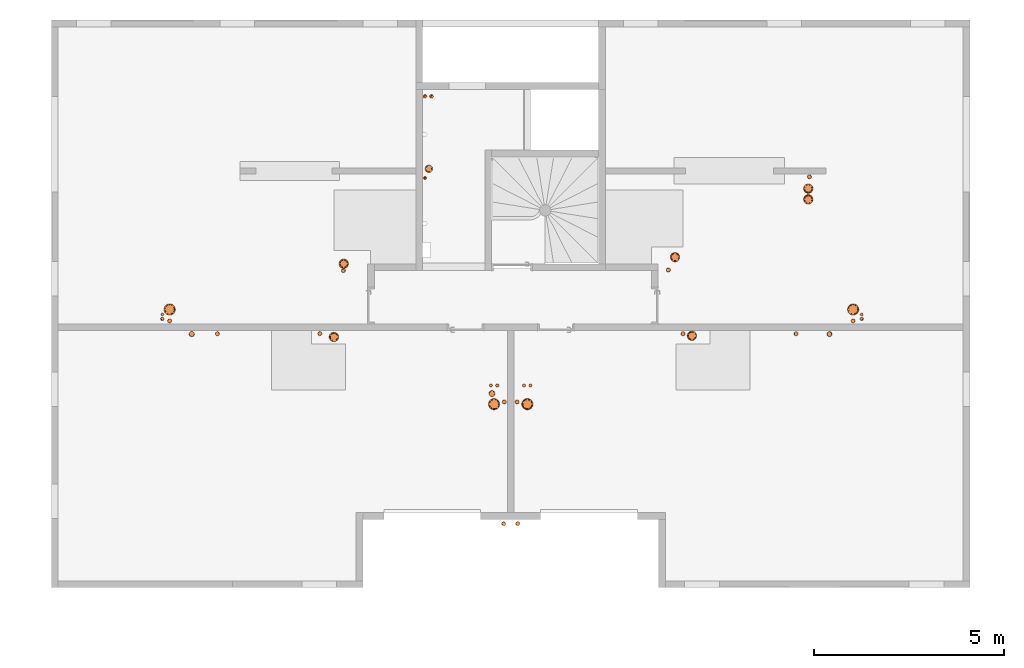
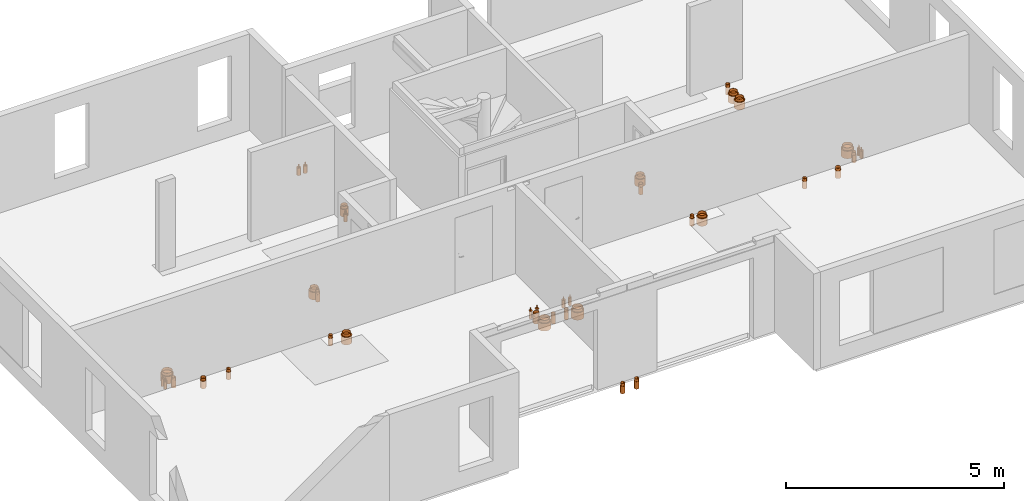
# One storey, part 21 of 24: 38 proxies.
"""IFC2X3 building model written with IfcOpenShell, lengths in centimetres."""

import ifcopenshell
import ifcopenshell.guid

model = None  # the IFC model being written
_history = None  # IfcOwnerHistory: only IFC2X3 demands one
_inside = {}  # id of a spatial element -> (the spatial element, [elements in it])
_under = {}  # id of a project, library or spatial element -> (it, [spatial elements below it])
_declared = {}  # id of a project -> (the project, [libraries it declares])
_typed = {}  # id of a type object -> (the type object, [elements of that type])
_made_of = {}  # id of a material, layer set ... -> (it, [elements and type objects made of it])


def new_model(schema):
    """Start an empty IFC model of exactly this schema.

    Asked for "IFC4X3", IfcOpenShell would pick the latest addendum, in which some entities
    have other attributes; the version numbers below select the first issue.
    IFC2X3 requires an IfcOwnerHistory on every rooted entity: one is made here for all.
    """
    global model, _history
    if schema == "IFC4X3":
        model = ifcopenshell.file(schema_version=(4, 3, 0, 0))
    else:
        model = ifcopenshell.file(schema=schema)
    _inside.clear()
    _under.clear()
    _declared.clear()
    _typed.clear()
    _made_of.clear()
    _history = None
    if model.schema == "IFC2X3":
        org = make("IfcOrganization", Name="unknown")
        user = make(
            "IfcPersonAndOrganization",
            ThePerson=make("IfcPerson", FamilyName="unknown"),
            TheOrganization=org,
        )
        app = make(
            "IfcApplication",
            ApplicationDeveloper=org,
            Version="unknown",
            ApplicationFullName="unknown",
            ApplicationIdentifier="unknown",
        )
        _history = make(
            "IfcOwnerHistory",
            OwningUser=user,
            OwningApplication=app,
            ChangeAction="ADDED",
            CreationDate=0,
        )
    return model


def make(cls, **values):
    """One entity of the class cls with the attributes given. An attribute that is None is left unset."""
    return model.create_entity(
        cls, **{name: value for name, value in values.items() if value is not None}
    )


def entity(cls, *values):
    """Any entity or typed value of the class cls, its attributes in the order of the schema. None: left unset."""
    e = model.create_entity(cls)
    for i, value in enumerate(values):
        if value is not None:
            e[i] = value
    return e


def rooted(cls, **values):
    """An entity with a GlobalId (a new one), such as an element, a storey or a relation."""
    return make(cls, GlobalId=ifcopenshell.guid.new(), OwnerHistory=_history, **values)


def si_unit(unit_type, name, prefix=None):
    """IfcSIUnit, for example si_unit("LENGTHUNIT", "METRE", prefix="MILLI")."""
    return make("IfcSIUnit", UnitType=unit_type, Prefix=prefix, Name=name)


def converted_unit(unit_type, name, factor, base, dimensions=None, offset=None):
    """IfcConversionBasedUnit, such as the inch: factor (a typed value) times the base unit."""
    return make(
        "IfcConversionBasedUnit"
        if offset is None
        else "IfcConversionBasedUnitWithOffset",
        ConversionOffset=offset,
        Dimensions=None
        if dimensions is None
        else entity("IfcDimensionalExponents", *dimensions),
        UnitType=unit_type,
        Name=name,
        ConversionFactor=make(
            "IfcMeasureWithUnit", ValueComponent=factor, UnitComponent=base
        ),
    )


def derived_unit(unit_type, elements):
    """IfcDerivedUnit: a product of units, each with its exponent."""
    return make(
        "IfcDerivedUnit",
        Elements=[
            make("IfcDerivedUnitElement", Unit=unit, Exponent=power)
            for unit, power in elements
        ],
        UnitType=unit_type,
    )


def assignment(units):
    """IfcUnitAssignment: the units of a project."""
    return None if units is None else make("IfcUnitAssignment", Units=units)


def point(xyz):
    """IfcCartesianPoint."""
    return None if xyz is None else make("IfcCartesianPoint", Coordinates=xyz)


def direction(xyz):
    """IfcDirection."""
    return None if xyz is None else make("IfcDirection", DirectionRatios=xyz)


def frame(location, z_axis=None, x_axis=None):
    """IfcAxis2Placement3D, a coordinate frame: its origin and axes. An axis left out is left unset."""
    return make(
        "IfcAxis2Placement3D",
        Location=point(location),
        Axis=direction(z_axis),
        RefDirection=direction(x_axis),
    )


def frame_2d(location, x_axis=None):
    """IfcAxis2Placement2D, a coordinate frame in the plane: its origin and x axis."""
    return make(
        "IfcAxis2Placement2D", Location=point(location), RefDirection=direction(x_axis)
    )


def origin():
    """The frame at (0, 0, 0) with its axes left unset."""
    return frame((0.0, 0.0, 0.0))


def place(relative_to, where):
    """IfcLocalPlacement: puts the frame where relative to a parent placement (None: the world)."""
    return make(
        "IfcLocalPlacement", PlacementRelTo=relative_to, RelativePlacement=where
    )


def context(
    kind, dimensions, precision=None, world=None, true_north=None, identifier=None
):
    """IfcGeometricRepresentationContext, for example the 3D "Model" context."""
    return make(
        "IfcGeometricRepresentationContext",
        ContextIdentifier=identifier,
        ContextType=kind,
        CoordinateSpaceDimension=dimensions,
        Precision=precision,
        WorldCoordinateSystem=world,
        TrueNorth=true_north,
    )


def subcontext(parent, identifier, kind, view, scale=None):
    """IfcGeometricRepresentationSubContext, for example "Body" below "Model"."""
    return make(
        "IfcGeometricRepresentationSubContext",
        ContextIdentifier=identifier,
        ContextType=kind,
        ParentContext=parent,
        TargetScale=scale,
        TargetView=view,
    )


def project(units=None, contexts=None):
    """IfcProject with its units and contexts."""
    return rooted(
        "IfcProject",
        Name="project",
        RepresentationContexts=contexts,
        UnitsInContext=assignment(units),
    )


def spatial(cls, under=None, at=None, **own):
    """A site, building, storey or space (cls), placed at a placement, below another one or the project."""
    s = rooted(cls, ObjectPlacement=at, **own)
    if under is not None:
        _under.setdefault(under.id(), (under, []))[1].append(s)
    return s


def profile(cls, at=None, kind="AREA", **sizes):
    """A parametric profile (cls). Its sizes go by their IFC names, for example OverallWidth=200.0."""
    return make(cls, ProfileType=kind, Position=at, **sizes)


def circle(**sizes):
    """IfcCircleProfileDef."""
    return profile("IfcCircleProfileDef", **sizes)


def hollow_circle(**sizes):
    """IfcCircleHollowProfileDef."""
    return profile("IfcCircleHollowProfileDef", **sizes)


def extrude(swept, where, along, depth):
    """IfcExtrudedAreaSolid: the profile swept, set in the frame where, extruded along a direction by depth."""
    return make(
        "IfcExtrudedAreaSolid",
        SweptArea=swept,
        Position=where,
        ExtrudedDirection=direction(along),
        Depth=depth,
    )


def shape(context_of_items, identifier, shape_type, items):
    """IfcShapeRepresentation: the items that make up one representation, for example the "Body"."""
    return make(
        "IfcShapeRepresentation",
        ContextOfItems=context_of_items,
        RepresentationIdentifier=identifier,
        RepresentationType=shape_type,
        Items=items,
    )


def source(mapping_origin, context_of_items, identifier, shape_type, items):
    """IfcRepresentationMap: a shape defined once, which mapped items show again and again."""
    return make(
        "IfcRepresentationMap",
        MappingOrigin=mapping_origin,
        MappedRepresentation=shape(context_of_items, identifier, shape_type, items),
    )


def transform(
    local_origin,
    x_axis=None,
    y_axis=None,
    z_axis=None,
    scale=None,
    scale2=None,
    scale3=None,
    uniform=True,
):
    """IfcCartesianTransformationOperator3D, or its non-uniform kind. x_axis, y_axis, z_axis: its Axis1, 2, 3."""
    if uniform:
        return make(
            "IfcCartesianTransformationOperator3D",
            Axis1=direction(x_axis),
            Axis2=direction(y_axis),
            LocalOrigin=point(local_origin),
            Scale=scale,
            Axis3=direction(z_axis),
        )
    return make(
        "IfcCartesianTransformationOperator3DnonUniform",
        Axis1=direction(x_axis),
        Axis2=direction(y_axis),
        LocalOrigin=point(local_origin),
        Scale=scale,
        Axis3=direction(z_axis),
        Scale2=scale2,
        Scale3=scale3,
    )


def mapped(mapping_source, mapping_target):
    """IfcMappedItem: shows the shape of a source again, moved by a transform."""
    return make(
        "IfcMappedItem", MappingSource=mapping_source, MappingTarget=mapping_target
    )


def material(Name=None, Category=None):
    """IfcMaterial."""
    return make("IfcMaterial", Name=Name, Category=Category)


def made_of(thing, what):
    """Note that an element or type object is made of a material, layer set ...; save() writes the relation."""
    if what is not None:
        _made_of.setdefault(what.id(), (what, []))[1].append(thing)
    return thing


def type_object(cls, material=None, **own):
    """A type object (cls), such as IfcWallType, which elements share."""
    return made_of(rooted(cls, **own), material)


def type_shapes(of_type, sources):
    """Give a type object the sources (RepresentationMaps) that its elements show as mapped items."""
    of_type.RepresentationMaps = sources


def element(
    cls,
    number,
    at=None,
    inside=None,
    cuts=None,
    type_object=None,
    material=None,
    context=None,
    identifier="Body",
    shape_type=None,
    held_by="IfcProductDefinitionShape",
    body=None,
    shapes=None,
    **own,
):
    """One element of the class cls, such as IfcWall. Its Tag is "e" and its number.

    at: its placement. inside: the storey or other place that contains it. cuts: it is an
    opening in that element (IfcRelVoidsElement). A single representation is given by context,
    identifier, shape_type and body (its items); several are given by shapes. held_by: the class
    of the entity that holds the representations. save() writes the other relations.
    """
    e = rooted(cls, Tag="e%d" % number, ObjectPlacement=at, **own)
    if body is not None:
        shapes = [shape(context, identifier, shape_type, body)]
    if shapes is not None:
        e.Representation = make(held_by, Representations=shapes)
    if inside is not None:
        _inside.setdefault(inside.id(), (inside, []))[1].append(e)
    if cuts is not None:
        rooted(
            "IfcRelVoidsElement", RelatingBuildingElement=cuts, RelatedOpeningElement=e
        )
    if type_object is not None:
        _typed.setdefault(type_object.id(), (type_object, []))[1].append(e)
    return made_of(e, material)


def aggregate(whole, parts):
    """IfcRelAggregates: a whole, such as a stair, and the parts it consists of."""
    return rooted("IfcRelAggregates", RelatingObject=whole, RelatedObjects=parts)


def save(model, path):
    """Write the relations noted so far, then the file.

    IfcRelAggregates (storeys below a building ...), IfcRelContainedInSpatialStructure (elements
    in a storey), IfcRelDefinesByType, IfcRelAssociatesMaterial and IfcRelDeclares: one each for
    every whole, place, type object, material and project.
    """
    for whole, parts in _under.values():
        aggregate(whole, parts)
    for where, things in _inside.values():
        rooted(
            "IfcRelContainedInSpatialStructure",
            RelatedElements=things,
            RelatingStructure=where,
        )
    for kind, things in _typed.values():
        rooted("IfcRelDefinesByType", RelatedObjects=things, RelatingType=kind)
    for what, things in _made_of.values():
        rooted("IfcRelAssociatesMaterial", RelatedObjects=things, RelatingMaterial=what)
    for by, libraries in _declared.values():
        rooted("IfcRelDeclares", RelatingContext=by, RelatedDefinitions=libraries)
    model.write(path)


model = new_model("IFC2X3")

# Units and contexts
model_context = context("Model", 3, precision=0.001, world=origin(), true_north=direction((6.12303176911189e-17, 1.0)))
body_context = subcontext(model_context, "Body", "Model", "MODEL_VIEW")
ifc_project = project(units=[si_unit("LENGTHUNIT", "METRE", prefix="CENTI"), si_unit("AREAUNIT", "SQUARE_METRE"), si_unit("VOLUMEUNIT", "CUBIC_METRE"), converted_unit("PLANEANGLEUNIT", "DEGREE", entity("IfcRatioMeasure", 0.0174532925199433), si_unit("PLANEANGLEUNIT", "RADIAN"), dimensions=[0, 0, 0, 0, 0, 0, 0]), si_unit("MASSUNIT", "GRAM", prefix="KILO"), derived_unit("MASSDENSITYUNIT", [(si_unit("MASSUNIT", "GRAM", prefix="KILO"), 1), (si_unit("LENGTHUNIT", "METRE"), -3)]), si_unit("TIMEUNIT", "SECOND"), si_unit("FREQUENCYUNIT", "HERTZ"), si_unit("THERMODYNAMICTEMPERATUREUNIT", "DEGREE_CELSIUS"), derived_unit("THERMALTRANSMITTANCEUNIT", [(si_unit("MASSUNIT", "GRAM", prefix="KILO"), 1), (si_unit("THERMODYNAMICTEMPERATUREUNIT", "KELVIN"), -1), (si_unit("TIMEUNIT", "SECOND"), -3)]), derived_unit("VOLUMETRICFLOWRATEUNIT", [(si_unit("LENGTHUNIT", "METRE"), 3), (si_unit("TIMEUNIT", "SECOND"), -1)]), si_unit("ELECTRICCURRENTUNIT", "AMPERE"), si_unit("ELECTRICVOLTAGEUNIT", "VOLT"), si_unit("POWERUNIT", "WATT"), si_unit("FORCEUNIT", "NEWTON"), si_unit("ILLUMINANCEUNIT", "LUX"), si_unit("LUMINOUSFLUXUNIT", "LUMEN"), si_unit("LUMINOUSINTENSITYUNIT", "CANDELA"), derived_unit("USERDEFINED", [(si_unit("MASSUNIT", "GRAM", prefix="KILO"), -1), (si_unit("LENGTHUNIT", "METRE"), -2), (si_unit("TIMEUNIT", "SECOND"), 3), (si_unit("LUMINOUSFLUXUNIT", "LUMEN"), 1)]), derived_unit("LINEARVELOCITYUNIT", [(si_unit("LENGTHUNIT", "METRE"), 1), (si_unit("TIMEUNIT", "SECOND"), -1)]), si_unit("PRESSUREUNIT", "PASCAL"), derived_unit("USERDEFINED", [(si_unit("LENGTHUNIT", "METRE"), -2), (si_unit("MASSUNIT", "GRAM", prefix="KILO"), 1), (si_unit("TIMEUNIT", "SECOND"), -2)])], contexts=[model_context])

# Site, building, storey
site_placement = place(None, origin())
site = spatial("IfcSite", under=ifc_project, at=site_placement, Name="Default", CompositionType="ELEMENT")
building_placement = place(site_placement, origin())
building = spatial("IfcBuilding", under=site, at=building_placement, Name="CAGE 03", CompositionType="ELEMENT")
storey_placement = place(building_placement, frame((0.0, 0.0, 1150.0)))
storey = spatial("IfcBuildingStorey", under=building, at=storey_placement, Name="R+4", CompositionType="ELEMENT", Elevation=1150.0)

# Proxies
ifc_material_1 = material(Name="Conduit EP")
building_element_proxy_type_1 = type_object("IfcBuildingElementProxyType", Name="EP 161", PredefinedType="NOTDEFINED", material=ifc_material_1)
shared_shape_1 = source(origin(), body_context, "Body", "SweptSolid", [
    extrude(circle(Radius=10.0, at=frame_2d((0.0, -1.61554457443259e-14), x_axis=(1.0, 0.0))), frame((0.0, 0.0, -21.0)), (0.0, 0.0, 1.0), 21.0),
    extrude(hollow_circle(Radius=8.0, WallThickness=0.250000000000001, at=frame_2d((0.0, -1.29243565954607e-14), x_axis=(1.0, 0.0))), frame((0.0, 0.0, -21.0)), (0.0, 0.0, 1.0), 28.5),
])
type_shapes(building_element_proxy_type_1, [shared_shape_1])
proxy_1_placement = place(storey_placement, frame((6865.50026930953, 4901.35358864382, -4.46999754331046e-07)))
element("IfcBuildingElementProxy", 1, at=proxy_1_placement, inside=storey, type_object=building_element_proxy_type_1, material=ifc_material_1, Name="Galette - Résa - PVC3:EP 161", ObjectType="EP 161", context=body_context, shape_type="MappedRepresentation", body=[
    mapped(shared_shape_1, transform((0.0, 0.0, 0.0), scale=1.0)),
])
building_element_proxy_type_2 = type_object("IfcBuildingElementProxyType", Name="CFO160 P150", PredefinedType="NOTDEFINED", material=ifc_material_1)
shared_shape_2 = source(origin(), body_context, "Body", "SweptSolid", [
    extrude(circle(Radius=8.0, at=frame_2d((0.0, -1.29243565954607e-14), x_axis=(1.0, 0.0))), frame((0.0, 0.0, -21.0)), (0.0, 0.0, 1.0), 21.0),
    extrude(hollow_circle(Radius=7.0, WallThickness=0.25, at=frame_2d((0.0, -1.13088120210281e-14), x_axis=(1.0, 0.0))), frame((0.0, 0.0, -21.0)), (0.0, 0.0, 1.0), 28.5),
])
type_shapes(building_element_proxy_type_2, [shared_shape_2])
proxy_2_placement = place(storey_placement, frame((7031.90297713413, 4308.4720260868, -4.46999754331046e-07)))
element("IfcBuildingElementProxy", 2, at=proxy_2_placement, inside=storey, type_object=building_element_proxy_type_2, material=ifc_material_1, Name="Galette - Résa - PVC3:CFO160 P150", ObjectType="CFO160 P150", context=body_context, shape_type="MappedRepresentation", body=[
    mapped(shared_shape_2, transform((0.0, 0.0, 0.0), scale=1.0)),
])
building_element_proxy_type_3 = type_object("IfcBuildingElementProxyType", Name="EP 101", PredefinedType="NOTDEFINED", material=ifc_material_1)
shared_shape_3 = source(origin(), body_context, "Body", "SweptSolid", [
    extrude(circle(Radius=5.5, at=frame_2d((0.0, -8.88549515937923e-15), x_axis=(1.0, 0.0))), frame((0.0, 0.0, -21.0)), (0.0, 0.0, 1.0), 21.0),
    extrude(hollow_circle(Radius=5.0, WallThickness=0.25, at=frame_2d((0.0, -8.07772287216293e-15), x_axis=(1.0, 0.0))), frame((0.0, 0.0, -21.0)), (0.0, 0.0, 1.0), 28.5),
])
type_shapes(building_element_proxy_type_3, [shared_shape_3])
for number, where, name in (
    (3, (7062.86582051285, 3965.65818063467, -4.46999754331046e-07), "Galette - Résa - PVC3:EP 101"),
    (4, (7099.86582014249, 3965.65818063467, -4.46999754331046e-07), "Galette - Résa - PVC3:EP 101"),
):
    element("IfcBuildingElementProxy", number, at=place(storey_placement, frame(where)), inside=storey, type_object=building_element_proxy_type_3, material=ifc_material_1, Name=name, ObjectType="EP 101", context=body_context, shape_type="MappedRepresentation", body=[
        mapped(shared_shape_3, transform((0.0, 0.0, 0.0), scale=1.0)),
    ])
ifc_material_2 = material(Name="Circuit CHF Aller")
building_element_proxy_type_4 = type_object("IfcBuildingElementProxyType", Name="CHF Aller 41", PredefinedType="NOTDEFINED", material=ifc_material_2)
shared_shape_4 = source(origin(), body_context, "Body", "SweptSolid", [
    extrude(circle(Radius=5.0, at=frame_2d((0.0, -8.07772287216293e-15), x_axis=(1.0, 0.0))), frame((0.0, 0.0, -21.0)), (0.0, 0.0, 1.0), 21.0),
    extrude(hollow_circle(Radius=2.0, WallThickness=0.4, at=frame_2d((0.0, -3.23108914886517e-15), x_axis=(1.0, 0.0))), frame((0.0, 0.0, -21.0)), (0.0, 0.0, 1.0), 28.5),
])
type_shapes(building_element_proxy_type_4, [shared_shape_4])
proxy_3_placement = place(storey_placement, frame((6872.36582014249, 5092.3606660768, -4.46999754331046e-07)))
element("IfcBuildingElementProxy", 5, at=proxy_3_placement, inside=storey, type_object=building_element_proxy_type_4, material=ifc_material_2, Name="Galette - Résa - PVC3:CHF Aller 41", ObjectType="CHF Aller 41", context=body_context, shape_type="MappedRepresentation", body=[
    mapped(shared_shape_4, transform((0.0, 0.0, 0.0), scale=1.0)),
])
ifc_material_3 = material(Name="Circuit CHF Retour")
building_element_proxy_type_5 = type_object("IfcBuildingElementProxyType", Name="CHF Retour 43", PredefinedType="NOTDEFINED", material=ifc_material_3)
shared_shape_5 = source(origin(), body_context, "Body", "SweptSolid", [
    extrude(circle(Radius=5.0, at=frame_2d((0.0, -8.07772287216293e-15), x_axis=(1.0, 0.0))), frame((0.0, 0.0, -21.0)), (0.0, 0.0, 1.0), 21.0),
    extrude(hollow_circle(Radius=2.0, WallThickness=0.4, at=frame_2d((0.0, -3.23108914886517e-15), x_axis=(1.0, 0.0))), frame((0.0, 0.0, -21.0)), (0.0, 0.0, 1.0), 28.5),
])
type_shapes(building_element_proxy_type_5, [shared_shape_5])
proxy_4_placement = place(storey_placement, frame((6855.36582014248, 5092.3606660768, -4.46999754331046e-07)))
element("IfcBuildingElementProxy", 6, at=proxy_4_placement, inside=storey, type_object=building_element_proxy_type_5, material=ifc_material_3, Name="Galette - Résa - PVC3:CHF Retour 43", ObjectType="CHF Retour 43", context=body_context, shape_type="MappedRepresentation", body=[
    mapped(shared_shape_5, transform((0.0, 0.0, 0.0), scale=1.0)),
])
ifc_material_4 = material(Name="Conduit EU")
building_element_proxy_type_6 = type_object("IfcBuildingElementProxyType", Name="CFO125 P110", PredefinedType="NOTDEFINED", material=ifc_material_4)
shared_shape_6 = source(origin(), body_context, "Body", "SweptSolid", [
    extrude(circle(Radius=5.5, at=frame_2d((0.0, -8.88549515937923e-15), x_axis=(1.0, 0.0))), frame((0.0, 0.0, -21.0)), (0.0, 0.0, 1.0), 21.0),
    extrude(hollow_circle(Radius=5.0, WallThickness=0.25, at=frame_2d((0.0, -8.07772287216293e-15), x_axis=(1.0, 0.0))), frame((0.0, 0.0, -21.0)), (0.0, 0.0, 1.0), 28.5),
])
type_shapes(building_element_proxy_type_6, [shared_shape_6])
for number, where, name in (
    (7, (7497.08660481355, 4634.38929607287, -4.47000187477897e-07), "Galette - Résa - PVC3:CFO125 P110"),
    (8, (7984.4508715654, 4500.32488712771, -4.46999754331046e-07), "Galette - Résa - PVC3:CFO125 P110"),
    (9, (7535.77855002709, 4466.36505499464, -4.46999754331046e-07), "Galette - Résa - PVC3:CFO125 P110"),
    (10, (7833.87946784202, 4466.32821753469, -4.46999754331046e-07), "Galette - Résa - PVC3:CFO125 P110"),
    (11, (7098.50805140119, 4286.58036411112, -4.46999754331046e-07), "Galette - Résa - PVC3:CFO125 P110"),
    (12, (7064.37018928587, 4286.58443855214, -4.46999754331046e-07), "Galette - Résa - PVC3:CFO125 P110"),
    (13, (6308.05703024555, 4466.34830105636, -4.46999754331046e-07), "Galette - Résa - PVC3:CFO125 P110"),
    (14, (6578.06629120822, 4466.41087994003, -4.46999754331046e-07), "Galette - Résa - PVC3:CFO125 P110"),
    (15, (6182.19149689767, 4500.35421277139, -4.46999754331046e-07), "Galette - Résa - PVC3:CFO125 P110"),
    (16, (6640.35702886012, 4632.82800462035, -4.46999754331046e-07), "Galette - Résa - PVC3:CFO125 P110"),
    (17, (7869.14720305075, 4880.10916521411, -4.46999754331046e-07), "Galette - Résa - PVC3:CFO125 P110"),
):
    element("IfcBuildingElementProxy", number, at=place(storey_placement, frame(where)), inside=storey, type_object=building_element_proxy_type_6, material=ifc_material_4, Name=name, ObjectType="CFO125 P110", context=body_context, shape_type="MappedRepresentation", body=[
        mapped(shared_shape_6, transform((0.0, 0.0, 0.0), scale=1.0)),
    ])
ifc_material_5 = material(Name="Conduit VMC")
building_element_proxy_type_7 = type_object("IfcBuildingElementProxyType", Name="CFO235 P210", PredefinedType="NOTDEFINED", material=ifc_material_5)
shared_shape_7 = source(origin(), body_context, "Body", "SweptSolid", [
    extrude(circle(Radius=12.5, at=frame_2d((0.0, -2.01943071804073e-14), x_axis=(1.0, 0.0))), frame((0.0, 0.0, -21.0)), (0.0, 0.0, 1.0), 21.0),
    extrude(hollow_circle(Radius=10.0, WallThickness=0.5, at=frame_2d((0.0, -1.61554457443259e-14), x_axis=(1.0, 0.0))), frame((0.0, 0.0, -21.0)), (0.0, 0.0, 1.0), 28.5),
])
type_shapes(building_element_proxy_type_7, [shared_shape_7])
for number, where, name in (
    (18, (7514.66326398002, 4668.31646675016, -4.46999754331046e-07), "Galette - Résa - PVC3:CFO235 P210"),
    (19, (7559.2488384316, 4460.96671430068, -4.46999754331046e-07), "Galette - Résa - PVC3:CFO235 P210"),
    (20, (6615.21171708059, 4457.86905232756, -4.46999754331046e-07), "Galette - Résa - PVC3:CFO235 P210"),
    (21, (6641.21764726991, 4650.9160667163, -4.46999754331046e-07), "Galette - Résa - PVC3:CFO235 P210"),
    (22, (7866.12110627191, 4848.9015173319, -4.46999754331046e-07), "Galette - Résa - PVC3:CFO235 P210"),
    (23, (7866.12110627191, 4820.81133445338, -4.46999754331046e-07), "Galette - Résa - PVC3:CFO235 P210"),
):
    element("IfcBuildingElementProxy", number, at=place(storey_placement, frame(where)), inside=storey, type_object=building_element_proxy_type_7, material=ifc_material_5, Name=name, ObjectType="CFO235 P210", context=body_context, shape_type="MappedRepresentation", body=[
        mapped(shared_shape_7, transform((0.0, 0.0, 0.0), scale=1.0)),
    ])
ifc_material_6 = material(Name="Circuit ECS Retour")
building_element_proxy_type_8 = type_object("IfcBuildingElementProxyType", Name="CFO100 P80", PredefinedType="NOTDEFINED", material=ifc_material_6)
shared_shape_8 = source(origin(), body_context, "Body", "SweptSolid", [
    extrude(circle(Radius=4.0, at=frame_2d((0.0, -6.46217829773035e-15), x_axis=(1.0, 0.0))), frame((0.0, 0.0, -21.0)), (0.0, 0.0, 1.0), 21.0),
    extrude(hollow_circle(Radius=1.0, WallThickness=0.0500000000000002, at=frame_2d((0.0, -1.61554457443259e-15), x_axis=(1.0, 0.0))), frame((0.0, 0.0, -21.0)), (0.0, 0.0, 1.0), 28.5),
])
type_shapes(building_element_proxy_type_8, [shared_shape_8])
for number, where, name in (
    (24, (8007.04479855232, 4517.07558993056, -4.46999754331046e-07), "Galette - Résa - PVC3:CFO100 P80"),
    (25, (7133.44860425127, 4329.86526421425, -4.46999754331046e-07), "Galette - Résa - PVC3:CFO100 P80"),
    (26, (7029.26768929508, 4329.86526421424, -4.46999754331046e-07), "Galette - Résa - PVC3:CFO100 P80"),
    (27, (6162.6777389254, 4517.07558993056, -4.46999754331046e-07), "Galette - Résa - PVC3:CFO100 P80"),
):
    element("IfcBuildingElementProxy", number, at=place(storey_placement, frame(where)), inside=storey, type_object=building_element_proxy_type_8, material=ifc_material_6, Name=name, ObjectType="CFO100 P80", context=body_context, shape_type="MappedRepresentation", body=[
        mapped(shared_shape_8, transform((0.0, 0.0, 0.0), scale=1.0)),
    ])
ifc_material_7 = material(Name="Circuit ECS Aller")
building_element_proxy_type_9 = type_object("IfcBuildingElementProxyType", Name="CFO100 P90", PredefinedType="NOTDEFINED", material=ifc_material_7)
shared_shape_9 = source(origin(), body_context, "Body", "SweptSolid", [
    extrude(circle(Radius=4.5, at=frame_2d((0.0, -7.26995058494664e-15), x_axis=(1.0, 0.0))), frame((0.0, 0.0, -21.0)), (0.0, 0.0, 1.0), 21.0),
    extrude(hollow_circle(Radius=1.6, WallThickness=0.05, at=frame_2d((0.0, -2.58487131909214e-15), x_axis=(1.0, 0.0))), frame((0.0, 0.0, -21.0)), (0.0, 0.0, 1.0), 28.5),
])
type_shapes(building_element_proxy_type_9, [shared_shape_9])
for number, where, name in (
    (28, (8007.04479855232, 4505.23903904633, -4.46999754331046e-07), "Galette - Résa - PVC3:CFO100 P90"),
    (29, (7046.26768929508, 4329.86526421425, -4.46999754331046e-07), "Galette - Résa - PVC3:CFO100 P90"),
    (30, (7116.44860425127, 4329.86526421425, -4.46999754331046e-07), "Galette - Résa - PVC3:CFO100 P90"),
    (31, (6162.6777389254, 4505.23903904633, -4.46999754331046e-07), "Galette - Résa - PVC3:CFO100 P90"),
):
    element("IfcBuildingElementProxy", number, at=place(storey_placement, frame(where)), inside=storey, type_object=building_element_proxy_type_9, material=ifc_material_7, Name=name, ObjectType="CFO100 P90", context=body_context, shape_type="MappedRepresentation", body=[
        mapped(shared_shape_9, transform((0.0, 0.0, 0.0), scale=1.0)),
    ])
building_element_proxy_type_10 = type_object("IfcBuildingElementProxyType", Name="CFO285 P260", PredefinedType="NOTDEFINED", material=ifc_material_5)
shared_shape_10 = source(origin(), body_context, "Body", "SweptSolid", [
    extrude(circle(Radius=15.0, at=frame_2d((0.0, -2.42331686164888e-14), x_axis=(1.0, 0.0))), frame((0.0, 0.0, -21.0)), (0.0, 0.0, 1.0), 21.0),
    extrude(hollow_circle(Radius=12.5, WallThickness=0.499999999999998, at=frame_2d((0.0, -2.01943071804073e-14), x_axis=(1.0, 0.0))), frame((0.0, 0.0, -21.0)), (0.0, 0.0, 1.0), 28.5),
])
type_shapes(building_element_proxy_type_10, [shared_shape_10])
for number, where, name in (
    (32, (7984.4508715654, 4530.34740146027, -4.46999754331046e-07), "Galette - Résa - PVC3:CFO285 P260"),
    (33, (7037.61602078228, 4280.58090900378, -4.46999754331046e-07), "Galette - Résa - PVC3:CFO285 P260"),
    (34, (7125.26139128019, 4280.58090900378, -4.46999754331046e-07), "Galette - Résa - PVC3:CFO285 P260"),
    (35, (6182.19149689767, 4530.34782251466, -4.46999754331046e-07), "Galette - Résa - PVC3:CFO285 P260"),
):
    element("IfcBuildingElementProxy", number, at=place(storey_placement, frame(where)), inside=storey, type_object=building_element_proxy_type_10, material=ifc_material_5, Name=name, ObjectType="CFO285 P260", context=body_context, shape_type="MappedRepresentation", body=[
        mapped(shared_shape_10, transform((0.0, 0.0, 0.0), scale=1.0)),
    ])
building_element_proxy_type_11 = type_object("IfcBuildingElementProxyType", Name="CFO140 P135", PredefinedType="NOTDEFINED", material=ifc_material_5)
shared_shape_11 = source(origin(), body_context, "Body", "SweptSolid", [
    extrude(circle(Radius=7.0, at=frame_2d((0.0, -1.13088120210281e-14), x_axis=(1.0, 0.0))), frame((0.0, 0.0, -21.0)), (0.0, 0.0, 1.0), 21.0),
    extrude(hollow_circle(Radius=6.25, WallThickness=0.25, at=frame_2d((0.0, -1.00971535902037e-14), x_axis=(1.0, 0.0))), frame((0.0, 0.0, -21.0)), (0.0, 0.0, 1.0), 28.5),
])
type_shapes(building_element_proxy_type_11, [shared_shape_11])
for number, where, name in (
    (36, (7921.88582014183, 4465.36426071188, -4.46999754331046e-07), "Galette - Résa - PVC3:CFO140 P135"),
    (37, (6240.30982300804, 4465.36426071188, -4.46999754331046e-07), "Galette - Résa - PVC3:CFO140 P135"),
):
    element("IfcBuildingElementProxy", number, at=place(storey_placement, frame(where)), inside=storey, type_object=building_element_proxy_type_11, material=ifc_material_5, Name=name, ObjectType="CFO140 P135", context=body_context, shape_type="MappedRepresentation", body=[
        mapped(shared_shape_11, transform((0.0, 0.0, 0.0), scale=1.0)),
    ])
ifc_material_8 = material(Name="Circuit EF")
building_element_proxy_type_12 = type_object("IfcBuildingElementProxyType", Name="EF 41", PredefinedType="NOTDEFINED", material=ifc_material_8)
shared_shape_12 = source(origin(), body_context, "Body", "SweptSolid", [
    extrude(circle(Radius=4.5, at=frame_2d((0.0, -7.26995058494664e-15), x_axis=(1.0, 0.0))), frame((0.0, 0.0, -21.0)), (0.0, 0.0, 1.0), 21.0),
    extrude(hollow_circle(Radius=2.2, WallThickness=0.449999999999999, at=frame_2d((0.0, -3.55419806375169e-15), x_axis=(1.0, 0.0))), frame((0.0, 0.0, -21.0)), (0.0, 0.0, 1.0), 28.5),
])
type_shapes(building_element_proxy_type_12, [shared_shape_12])
proxy_5_placement = place(storey_placement, frame((6855.36638671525, 4877.15864997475, -4.46999754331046e-07)))
element("IfcBuildingElementProxy", 38, at=proxy_5_placement, inside=storey, type_object=building_element_proxy_type_12, material=ifc_material_8, Name="Galette - Résa - PVC3:EF 41", ObjectType="EF 41", context=body_context, shape_type="MappedRepresentation", body=[
    mapped(shared_shape_12, transform((0.0, 0.0, 0.0), scale=1.0)),
])

save(model, "model.ifc")
